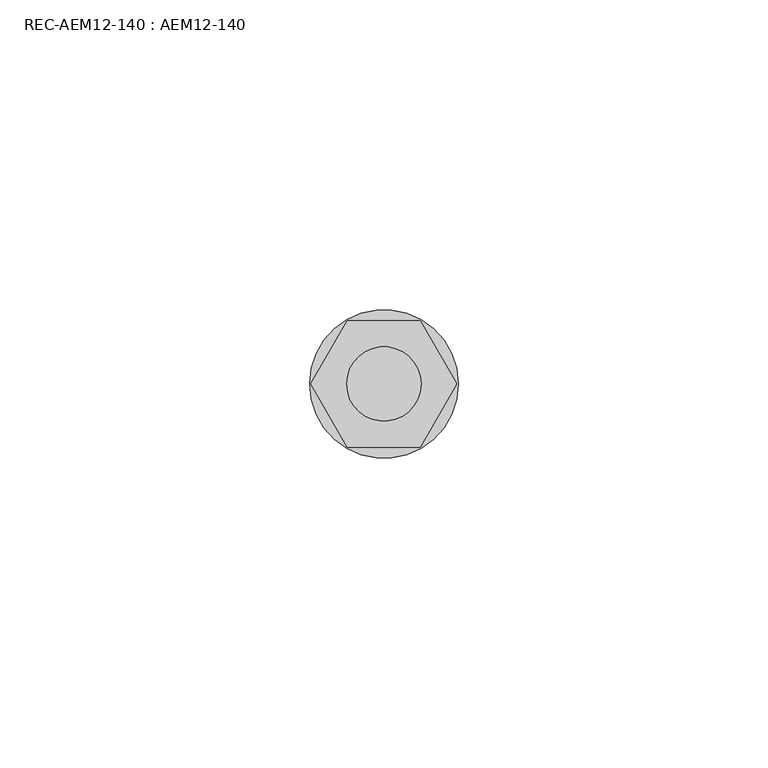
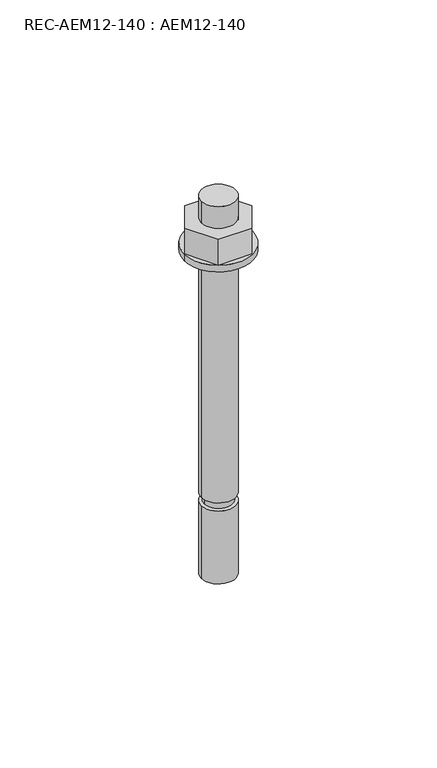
"""IFC4 building model written with IfcOpenShell, lengths in millimetres: fastener geometry, REC-AEM12-140 : AEM12-140."""

from ifc_helpers import new_model, si_unit, point, frame, origin, origin_with_axes, origin_2d, place, context, project, spatial, polyline, circle_curve, trimmed, segment, composite_curve, outline, extrude, source, transform, mapped, element, save


def rec_aem12_140_aem12_140_f4c1c3c3(model_context):
    return source(origin(), model_context, "Body", "SweptSolid", [
        extrude(outline(polyline([(-5.890503, 10.20264), (5.8904909, 10.20264), (11.7809879, 0.0), (5.8904909, -10.20264), (-5.890503, -10.20264), (-11.781, 0.0), (-5.890503, 10.20264)]), holes=[composite_curve([segment(trimmed(circle_curve(origin_2d(), 6.0), [point((-6.0, 0.0))], [point((6.0, 0.0))], True, "CARTESIAN"), True, "CONTINUOUS"), segment(trimmed(circle_curve(origin_2d(), 6.0), [point((6.0, 0.0))], [point((-6.0, 0.0))], True, "CARTESIAN"), True, "CONTINUOUS")], self_intersect=False)]), frame((0.0, 0.0, 2.3999976), z_axis=(0.0, 0.0, 1.0), x_axis=(1.0, 0.0, 0.0)), (0.0, 0.0, 1.0), 9.6),
        extrude(outline(composite_curve([segment(trimmed(circle_curve(origin_2d(), 12.0), [point((-12.0, 0.0))], [point((12.0, 0.0))], False, "CARTESIAN"), True, "CONTINUOUS"), segment(trimmed(circle_curve(origin_2d(), 12.0), [point((12.0, 0.0))], [point((-12.0, 0.0))], False, "CARTESIAN"), True, "CONTINUOUS")], self_intersect=False), holes=[composite_curve([segment(trimmed(circle_curve(origin_2d(), 7.0), [point((-7.0, 0.0))], [point((7.0, 0.0))], True, "CARTESIAN"), True, "CONTINUOUS"), segment(trimmed(circle_curve(origin_2d(), 7.0), [point((7.0, 0.0))], [point((-7.0, 0.0))], True, "CARTESIAN"), True, "CONTINUOUS")], self_intersect=False)]), origin_with_axes(), (0.0, 0.0, 1.0), 2.3999976),
        extrude(outline(composite_curve([segment(trimmed(circle_curve(origin_2d(), 6.0), [point((-6.0, 0.0))], [point((6.0, 0.0))], False, "CARTESIAN"), True, "CONTINUOUS"), segment(trimmed(circle_curve(origin_2d(), 6.0), [point((6.0, 0.0))], [point((-6.0, 0.0))], False, "CARTESIAN"), True, "CONTINUOUS")], self_intersect=False)), frame((0.0, 0.0, -90.0), z_axis=(0.0, 0.0, 1.0), x_axis=(1.0, 0.0, 0.0)), (0.0, 0.0, 1.0), 110.0),
        extrude(outline(composite_curve([segment(trimmed(circle_curve(origin_2d(), 6.0), [point((-6.0, 0.0))], [point((6.0, 0.0))], False, "CARTESIAN"), True, "CONTINUOUS"), segment(trimmed(circle_curve(origin_2d(), 6.0), [point((6.0, 0.0))], [point((-6.0, 0.0))], False, "CARTESIAN"), True, "CONTINUOUS")], self_intersect=False)), frame((0.0, 0.0, -120.0), z_axis=(0.0, 0.0, 1.0), x_axis=(1.0, 0.0, 0.0)), (0.0, 0.0, 1.0), 27.0),
        extrude(outline(composite_curve([segment(trimmed(circle_curve(origin_2d(), 5.0), [point((-5.0, 0.0))], [point((5.0, 0.0))], False, "CARTESIAN"), True, "CONTINUOUS"), segment(trimmed(circle_curve(origin_2d(), 5.0), [point((5.0, 0.0))], [point((-5.0, 0.0))], False, "CARTESIAN"), True, "CONTINUOUS")], self_intersect=False)), frame((0.0, 0.0, -93.0), z_axis=(0.0, 0.0, 1.0), x_axis=(1.0, 0.0, 0.0)), (0.0, 0.0, 1.0), 3.0),
    ])


if __name__ == "__main__":
    model = new_model("IFC4")
    model_context = context("Model", 3, world=origin())
    ifc_project = project(units=[si_unit("LENGTHUNIT", "METRE", prefix="MILLI")], contexts=[model_context])
    site = spatial("IfcSite", under=ifc_project)
    building = spatial("IfcBuilding", under=site)
    placement = place(None, origin())
    rec_aem12_140_aem12_140_shape = rec_aem12_140_aem12_140_f4c1c3c3(model_context)
    element("IfcFastener", 1, ObjectType="REC-AEM12-140 : AEM12-140", at=placement, inside=building, context=model_context, shape_type="MappedRepresentation", body=[
        mapped(rec_aem12_140_aem12_140_shape, transform((0.0, 0.0, 0.0), x_axis=(1.0, 0.0, 0.0), y_axis=(0.0, 1.0, 0.0), z_axis=(0.0, 0.0, 1.0))),
    ])
    save(model, "model.ifc")
